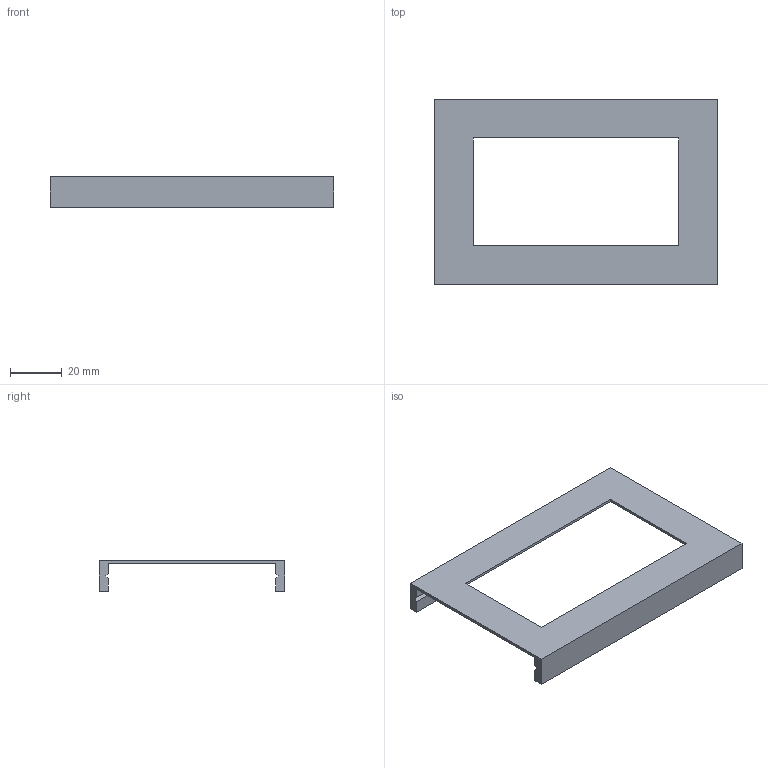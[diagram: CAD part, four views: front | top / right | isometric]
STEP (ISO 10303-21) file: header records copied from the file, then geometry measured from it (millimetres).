
FILE_DESCRIPTION(('STEP AP242 Edition 2','STEP AP242 Edition 2''CAx-IF Rec.Pracs.---Representation and Presentation of Product Manufacturing Information (PMI)---4.0---2014-10-13','STEP AP242 Edition 2''CAx-IF Rec.Pracs.---Representation and Presentation of Product Manufacturing Information (PMI)---4.0---2014-10-13''CAx-IF Rec.Pracs.---3D Tessellated Geometry---0.4---2014-09-14','STEP AP242 Edition 2''CAx-IF Rec.Pracs.---Representation and Presentation of Product Manufacturing Information (PMI)---4.0---2014-10-13''CAx-IF Rec.Pracs.---3D Tessellated Geometry---0.4---2014-09-14''2;1','STEP AP242 Edition 2''CAx-IF Rec.Pracs.---Representation and Presentation of Product Manufacturing Information (PMI)---4.0---2014-10-13''CAx-IF Rec.Pracs.---3D Tessellated Geometry---0.4---2014-09-14''2;1''CAx-IF Rec.Pracs.---User Defined Attributes---1.5---2016-08-15'),'2;1');
FILE_NAME('/vol/tmp/translate-371612670479758043/Case - Case Bottom Inner.step','2026-03-18T15:31:30',(''),(''),'ST-DEVELOPER v20','ONSHAPE BY PTC INC, 1.212',' ');
FILE_SCHEMA(('AP242_MANAGED_MODEL_BASED_3D_ENGINEERING_MIM_LF { 1 0 10303 442 3 1 4 }'));
Length unit declared in the file: metre
Products named in the file (1): Case Bottom Inner
Bounding box: 109.22 x 71.58 x 11.9 mm (x, y, z)
Volume: 12829.5 mm3; surface area: 14746.2 mm2
Topology: 1 solids, 1 shells, 20 faces, 54 edges, 36 vertices
Faces by surface type: plane 20
Entity records: 644 total; most frequent: CARTESIAN_POINT 111, ORIENTED_EDGE 108, DIRECTION 96, EDGE_CURVE 54, LINE 54, VECTOR 54, VERTEX_POINT 36, EDGE_LOOP 22
